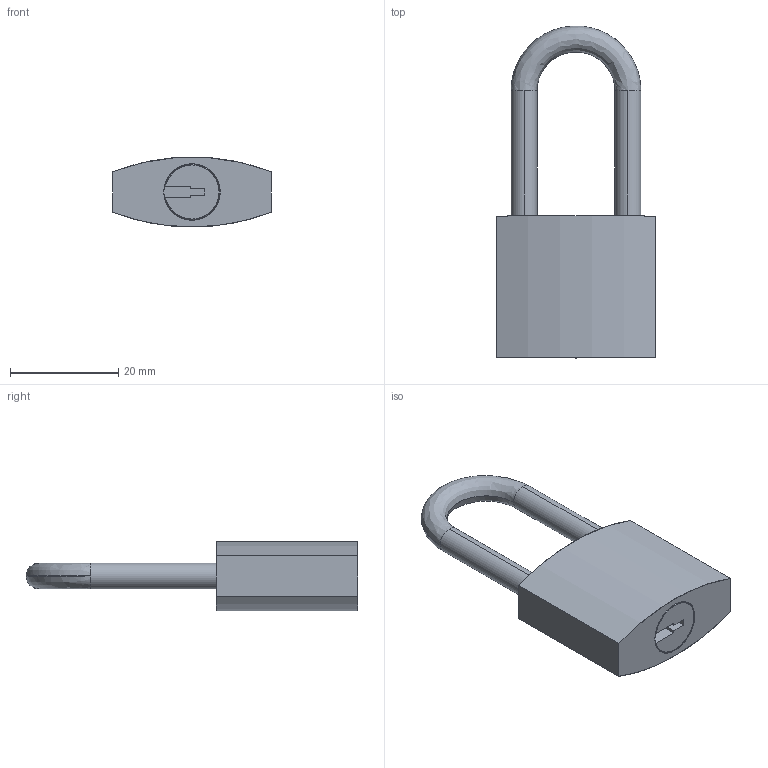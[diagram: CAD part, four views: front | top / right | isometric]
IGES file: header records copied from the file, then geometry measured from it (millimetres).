
Start section: SolidWorks IGES file using analytic representation for surfaces
Bounding box: 29.3 x 61.29 x 12.9 mm (x, y, z)
Surface area: 3796.5 mm2 (no closed solid volume)
Topology: 0 solids, 0 shells, 25 faces, 279 edges, 279 vertices
Faces by surface type: bspline 15, revolution 10
